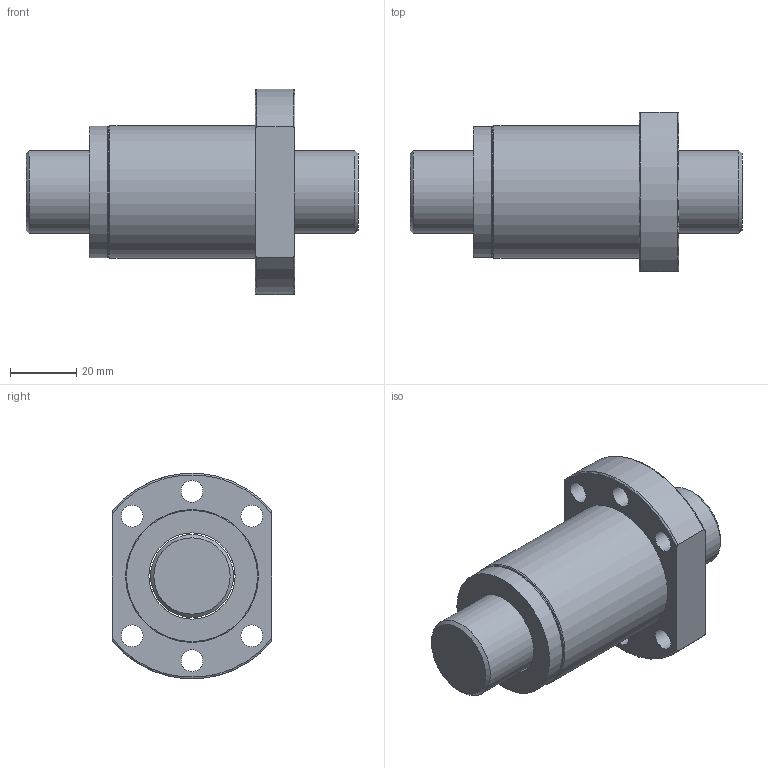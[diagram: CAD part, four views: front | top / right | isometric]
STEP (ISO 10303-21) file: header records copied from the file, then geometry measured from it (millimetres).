
FILE_DESCRIPTION(/* description */ (''),/* implementation_level */ '2;1');
FILE_NAME(/* name */ 'SFS2510',/* time_stamp */ '2007-10-26T10:58:31+08:00',/* author */ (''),/* organization */ (''),/* preprocessor_version */ 'ST-DEVELOPER v9',/* originating_system */ 'UGS - NX 3.0',/* authorisation */ '');
FILE_SCHEMA (('CONFIG_CONTROL_DESIGN'));
Length unit declared in the file: millimetre
Products named in the file (1): jaso37B0hu7a
Bounding box: 100 x 48 x 61.8 mm (x, y, z)
Volume: 107961.6 mm3; surface area: 31849.3 mm2
Topology: 4 solids, 4 shells, 40 faces, 79 edges, 52 vertices
Faces by surface type: cylinder 18, plane 12, torus 5, bspline 3, cone 2
Full cylindrical faces by diameter (mm): 6.6 x6, 25 x1, 26 x3, 39 x2, 39.5 x3, 40 x1
Entity records: 1242 total; most frequent: CARTESIAN_POINT 357, DIRECTION 166, ORIENTED_EDGE 120, EDGE_LOOP 82, AXIS2_PLACEMENT_3D 79, EDGE_CURVE 60, FACE_BOUND 59, VERTEX_POINT 52
